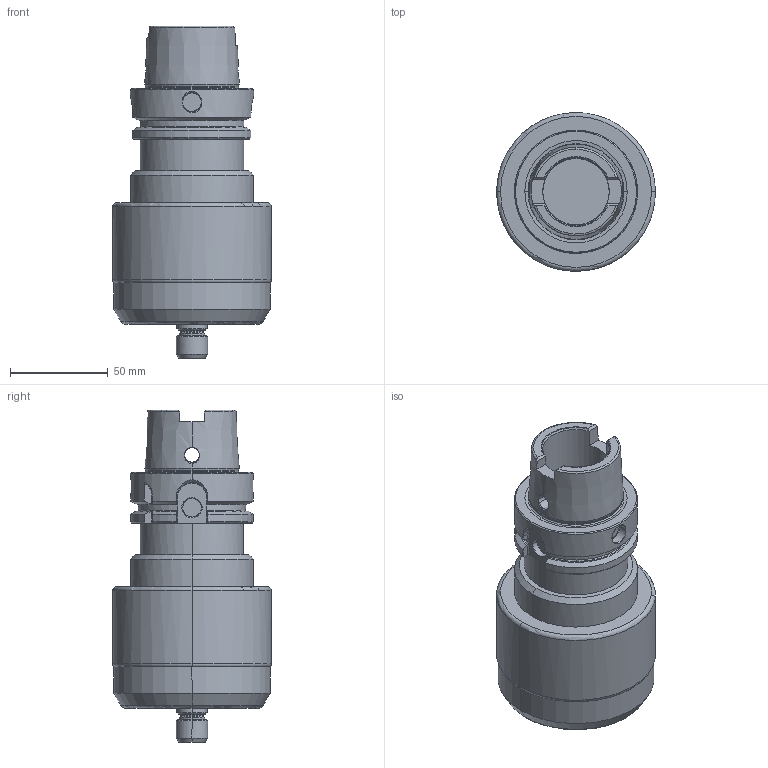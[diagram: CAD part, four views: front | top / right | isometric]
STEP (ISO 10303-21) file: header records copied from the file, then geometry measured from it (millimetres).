
FILE_DESCRIPTION(('CATIA V5 STEP','CAx-IF Rec.Pracs.--- Model Styling and Organization---1.2---2011-12-15'),'2;1');
FILE_NAME('N:\data\isr\design\special1\users\NATALY_B\Tal\NPA\3339543\TJS-HPC-HSK A63-L.stp','2018-07-10T05:13:36+00:00',('none'),('none'),'CATIA Version 5 Release 21 SP 5 (IN-10)','CATIA V5 STEP AP214','none');
FILE_SCHEMA(('AUTOMOTIVE_DESIGN { 1 0 10303 214 1 1 1 1 }'));
Length unit declared in the file: millimetre
Products named in the file (1): TJS-HPC-HSK A63
Bounding box: 81.3 x 81.3 x 170.01 mm (x, y, z)
Volume: 491011.2 mm3; surface area: 49455.6 mm2
Topology: 1 solids, 1 shells, 208 faces, 628 edges, 429 vertices
Faces by surface type: cone 65, cylinder 62, plane 48, torus 32, bspline 1
Entity records: 10069 total; most frequent: CARTESIAN_POINT 4717, ORIENTED_EDGE 1252, DIRECTION 764, EDGE_CURVE 626, VERTEX_POINT 429, AXIS2_PLACEMENT_3D 380, B_SPLINE_CURVE_WITH_KNOTS 270, EDGE_LOOP 221
